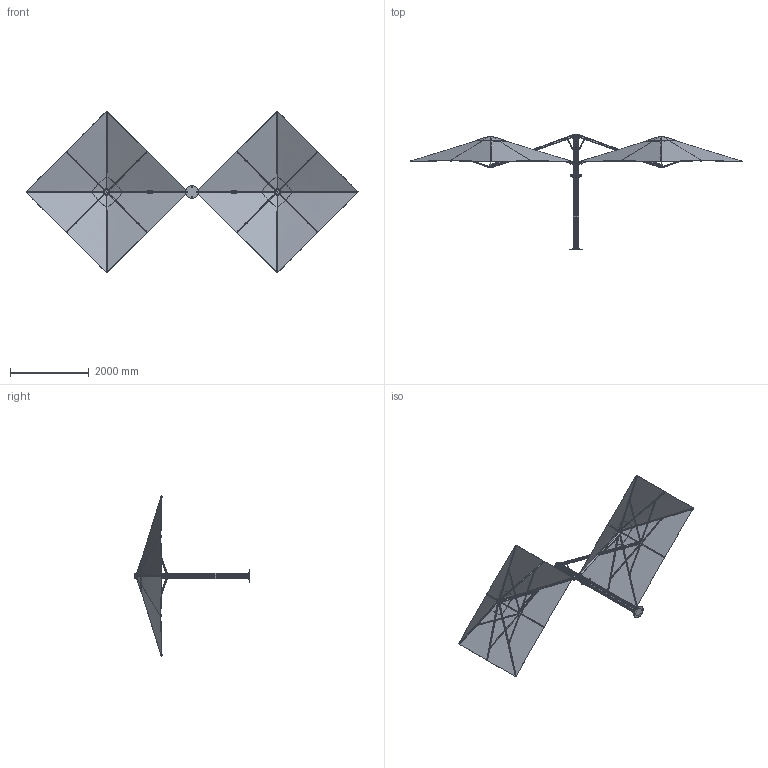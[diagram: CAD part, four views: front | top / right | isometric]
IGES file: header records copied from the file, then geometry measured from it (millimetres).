
Start section: SolidWorks IGES file using analytic representation for surfaces
Global section: file name: S:\RESEARCH and DEVELOPMENT\UnitySerenity Simple CAD Models\1. Export CAD\IGES Files\3M Square Duo Opposite.IGS; native system: SolidWorks 2017; preprocessor: SolidWorks 2017; author: Peter; date: 200619.104221; units: millimetre
Bounding box: 8412.11 x 2932.5 x 4084.6 mm (x, y, z)
Surface area: 46505577.7 mm2 (no closed solid volume)
Topology: 0 solids, 0 shells, 3718 faces, 49824 edges, 49782 vertices
Faces by surface type: bspline 2012, revolution 1706
